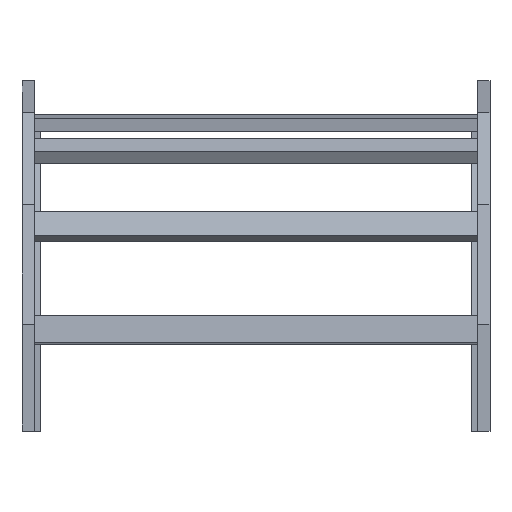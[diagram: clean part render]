
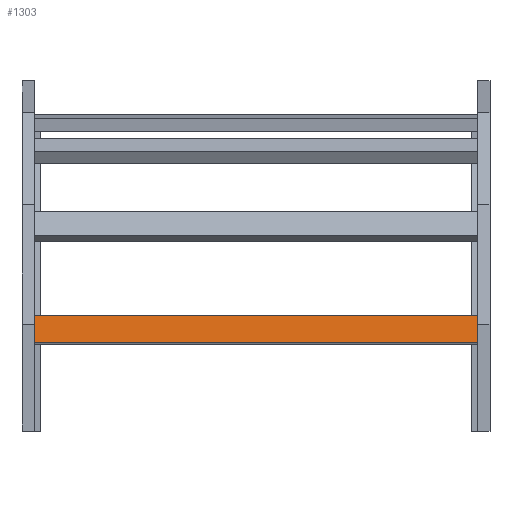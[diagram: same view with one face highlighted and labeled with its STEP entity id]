
A CAD part, top view. The second image highlights one B-rep face of the part: STEP entity #1303.
In plain terms, the highlighted planar face has unit normal (0, 0.131, 0.991) as drawn and (0, 1, 0) by its records, which use the part's own axes.
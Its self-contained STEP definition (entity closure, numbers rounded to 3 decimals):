
#64 = VERTEX_POINT ( 'NONE', #1630 ) ;
#127 = CARTESIAN_POINT ( 'NONE',  ( -348., 20., 20.25 ) ) ;
#163 = VERTEX_POINT ( 'NONE', #1691 ) ;
#231 = ORIENTED_EDGE ( 'NONE', *, *, #282, .F. ) ;
#265 = CARTESIAN_POINT ( 'NONE',  ( 348., 20., 20.25 ) ) ;
#272 = CARTESIAN_POINT ( 'NONE',  ( 348., 20., -20.25 ) ) ;
#279 = VECTOR ( 'NONE', #1506, 1000. ) ;
#282 = EDGE_CURVE ( 'NONE', #1498, #897, #1719, .T. ) ;
#341 = FACE_OUTER_BOUND ( 'NONE', #947, .T. ) ;
#359 = CARTESIAN_POINT ( 'NONE',  ( 348., 20., 20.25 ) ) ;
#439 = DIRECTION ( 'NONE',  ( -1., 0., 0. ) ) ;
#488 = CARTESIAN_POINT ( 'NONE',  ( 348., 20., 20.25 ) ) ;
#570 = VECTOR ( 'NONE', #1553, 1000. ) ;
#610 = ORIENTED_EDGE ( 'NONE', *, *, #1089, .T. ) ;
#614 = VECTOR ( 'NONE', #439, 1000. ) ;
#641 = ORIENTED_EDGE ( 'NONE', *, *, #692, .T. ) ;
#692 = EDGE_CURVE ( 'NONE', #163, #897, #1449, .T. ) ;
#694 = CARTESIAN_POINT ( 'NONE',  ( 348., 20., 20.25 ) ) ;
#897 = VERTEX_POINT ( 'NONE', #1342 ) ;
#947 = EDGE_LOOP ( 'NONE', ( #641, #231, #1186, #610 ) ) ;
#1075 = PLANE ( 'NONE',  #1512 ) ;
#1089 = EDGE_CURVE ( 'NONE', #64, #163, #1117, .T. ) ;
#1117 = LINE ( 'NONE', #272, #570 ) ;
#1186 = ORIENTED_EDGE ( 'NONE', *, *, #1299, .F. ) ;
#1299 = EDGE_CURVE ( 'NONE', #64, #1498, #1786, .T. ) ;
#1303 = ADVANCED_FACE ( 'NONE', ( #341 ), #1075, .F. ) ;
#1342 = CARTESIAN_POINT ( 'NONE',  ( -348., 20., 20.25 ) ) ;
#1399 = DIRECTION ( 'NONE',  ( 0., -1., 0. ) ) ;
#1449 = LINE ( 'NONE', #127, #1502 ) ;
#1498 = VERTEX_POINT ( 'NONE', #694 ) ;
#1502 = VECTOR ( 'NONE', #1606, 1000. ) ;
#1506 = DIRECTION ( 'NONE',  ( 0., 0., 1. ) ) ;
#1512 = AXIS2_PLACEMENT_3D ( 'NONE', #488, #1399, #1657 ) ;
#1553 = DIRECTION ( 'NONE',  ( -1., 0., 0. ) ) ;
#1606 = DIRECTION ( 'NONE',  ( 0., 0., 1. ) ) ;
#1630 = CARTESIAN_POINT ( 'NONE',  ( 348., 20., -20.25 ) ) ;
#1657 = DIRECTION ( 'NONE',  ( 0., 0., -1. ) ) ;
#1691 = CARTESIAN_POINT ( 'NONE',  ( -348., 20., -20.25 ) ) ;
#1719 = LINE ( 'NONE', #265, #614 ) ;
#1786 = LINE ( 'NONE', #359, #279 ) ;
